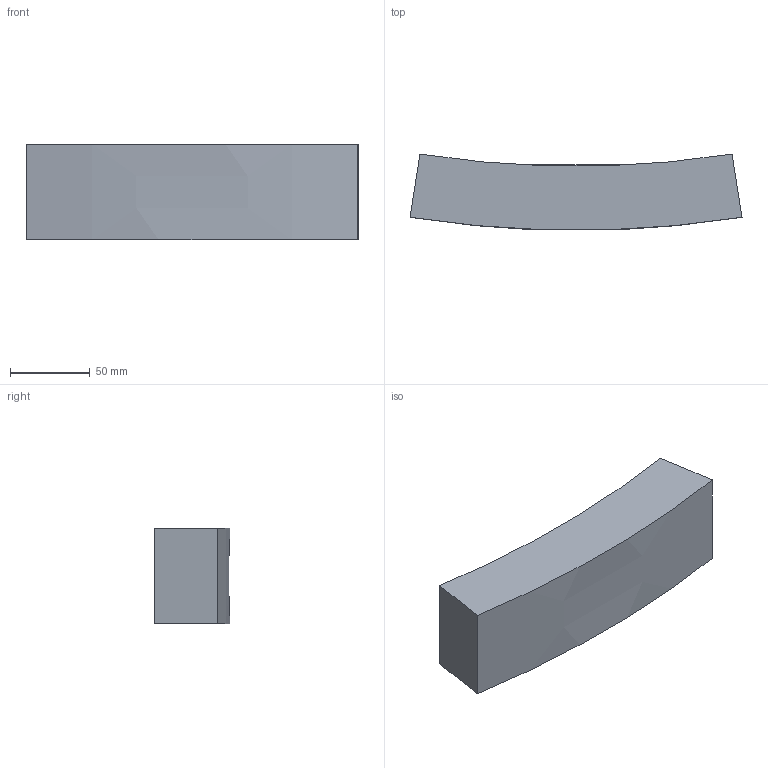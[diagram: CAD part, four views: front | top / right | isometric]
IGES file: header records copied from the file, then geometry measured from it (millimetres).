
Start section:  PTC IGES file: d160-1600_fixbloc_d630_pk-01.igs
Global section: file name: d160-1600_fixbloc_d630_pk-01.igs; native system: Creo Parametric by PTC Inc.; preprocessor: 2019030; author: demmerls; organization: Unknown; date: 20200928.085333; units: millimetre
Bounding box: 207.54 x 47.28 x 60 mm (x, y, z)
Surface area: 45232.1 mm2 (no closed solid volume)
Topology: 0 solids, 0 shells, 6 faces, 24 edges, 24 vertices
Faces by surface type: bspline 6
